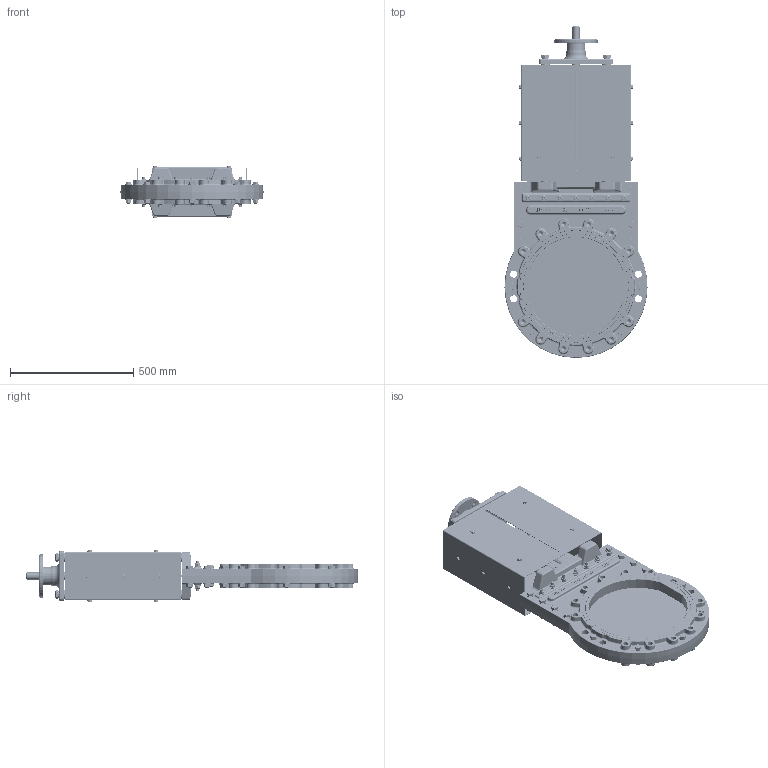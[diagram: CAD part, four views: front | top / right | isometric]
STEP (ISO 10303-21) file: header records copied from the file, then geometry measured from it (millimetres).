
FILE_DESCRIPTION(/* description */ (''),/* implementation_level */ '2;1');
FILE_NAME(/* name */ 'Rising stem knife gate valve with top flange DN400-10.stp',/* time_stamp */ '2025-04-21T16:46:21+08:00',/* author */ (''),/* organization */ (''),/* preprocessor_version */ 'ST-DEVELOPER v15',/* originating_system */ 'SIEMENS PLM Software NX 10.0',/* authorisation */ '');
FILE_SCHEMA (('AP203_CONFIGURATION_CONTROLLED_3D_DESIGN_OF_MECHANICAL_PARTS_AND_ASSEMBLIES_MIM_LF { 1 0 10303 403 2 1 2}'));
Products named in the file (1): Admi256412D81npa
Bounding box: 579.93 x 1345.99 x 211.8 mm (x, y, z)
Volume: 23751910 mm3; surface area: 3158839.3 mm2
Topology: 1 solids, 57 shells, 3481 faces, 8187 edges, 5093 vertices
Faces by surface type: plane 1266, cylinder 722, bspline 698, cone 421, torus 235, extrusion 71, sphere 68
Full cylindrical faces by diameter (mm): 2 x4, 5.2 x1, 8 x12, 8.4 x12, 8.5 x8, 9.5 x12, 10 x8, 10.5 x8, 11 x12, 11.4 x6, 12 x36, 12.5 x14, 13 x14, 15.053 x13, 15.6 x8, 16 x42, 16.5 x2, 17 x26, 17.5 x6, 18 x4, 19.053 x4, 20 x16, 21 x36, 22 x27, 23 x2, 24 x15, 25 x6, 27 x4, 28 x4, 29 x4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
Entity records: 119776 total; most frequent: CARTESIAN_POINT 50704, ORIENTED_EDGE 14174, DIRECTION 12260, EDGE_CURVE 7087, AXIS2_PLACEMENT_3D 5112, VERTEX_POINT 4801, EDGE_LOOP 4712, ADVANCED_FACE 3481
